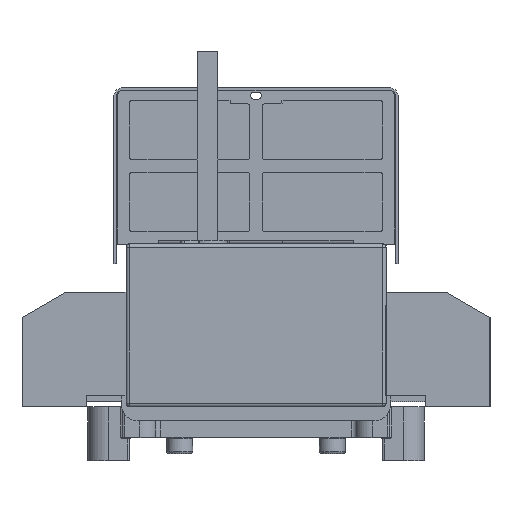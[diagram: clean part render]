
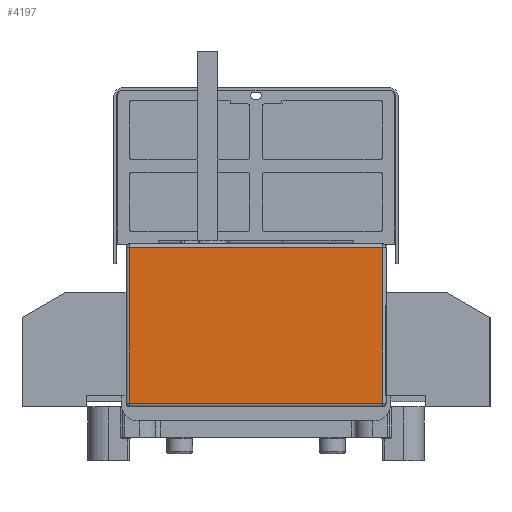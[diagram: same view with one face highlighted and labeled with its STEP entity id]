
A CAD part, left-side view. The second image highlights one B-rep face of the part: STEP entity #4197.
In plain terms, the highlighted planar face has unit normal (-1, 0, 0).
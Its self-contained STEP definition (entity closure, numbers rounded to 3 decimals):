
#4197=ADVANCED_FACE('',(#6915),#5325,.F.);
#5325=PLANE('',#35676);
#6915=FACE_OUTER_BOUND('',#8946,.T.);
#8946=EDGE_LOOP('',(#17244,#17245,#17246,#17247));
#17244=ORIENTED_EDGE('',*,*,#26054,.T.);
#17245=ORIENTED_EDGE('',*,*,#26035,.T.);
#17246=ORIENTED_EDGE('',*,*,#26046,.T.);
#17247=ORIENTED_EDGE('',*,*,#26024,.T.);
#21493=VERTEX_POINT('',#57248);
#21497=VERTEX_POINT('',#57259);
#21502=VERTEX_POINT('',#57276);
#21503=VERTEX_POINT('',#57280);
#26024=EDGE_CURVE('',#21497,#21493,#29414,.T.);
#26035=EDGE_CURVE('',#21503,#21502,#29419,.T.);
#26046=EDGE_CURVE('',#21502,#21497,#29422,.T.);
#26054=EDGE_CURVE('',#21493,#21503,#29430,.T.);
#29414=LINE('',#57262,#32742);
#29419=LINE('',#57283,#32747);
#29422=LINE('',#57306,#32750);
#29430=LINE('',#57317,#32758);
#32742=VECTOR('',#44487,1.);
#32747=VECTOR('',#44512,1.);
#32750=VECTOR('',#44541,1.);
#32758=VECTOR('',#44555,1.);
#35676=AXIS2_PLACEMENT_3D('',#57321,#44561,#44562);
#44487=DIRECTION('',(0.,1.,0.));
#44512=DIRECTION('',(0.,-1.,0.));
#44541=DIRECTION('',(0.,0.,1.));
#44555=DIRECTION('',(0.,0.,-1.));
#44561=DIRECTION('',(1.,0.,0.));
#44562=DIRECTION('',(0.,1.,0.));
#57248=CARTESIAN_POINT('',(-150.,73.,92.));
#57259=CARTESIAN_POINT('',(-150.,-73.,92.));
#57262=CARTESIAN_POINT('',(-150.,73.,92.));
#57276=CARTESIAN_POINT('',(-150.,-73.,2.));
#57280=CARTESIAN_POINT('',(-150.,73.,2.));
#57283=CARTESIAN_POINT('',(-150.,75.,2.));
#57306=CARTESIAN_POINT('',(-150.,-73.,94.));
#57317=CARTESIAN_POINT('',(-150.,73.,94.));
#57321=CARTESIAN_POINT('',(-150.,75.,94.));
